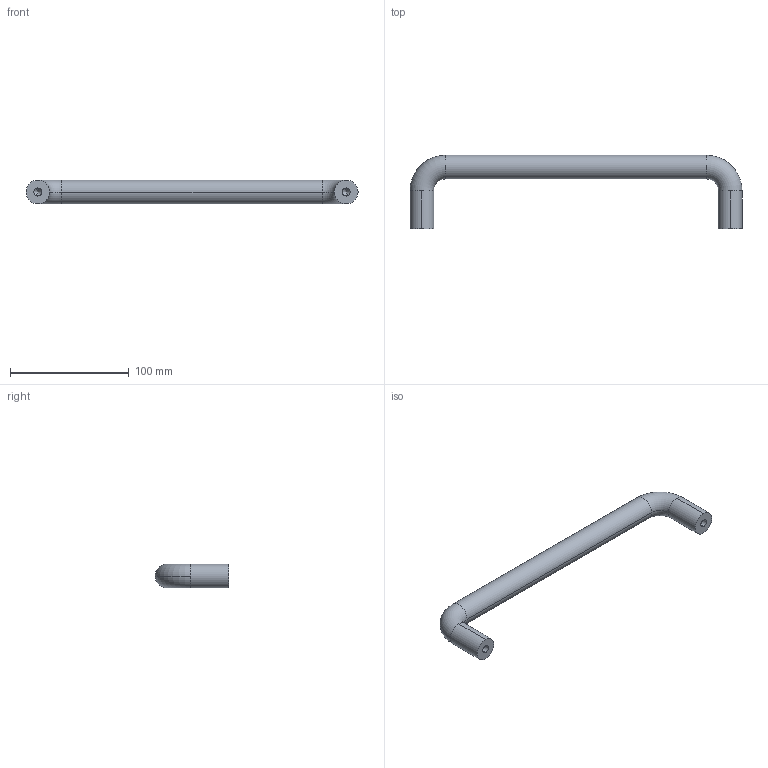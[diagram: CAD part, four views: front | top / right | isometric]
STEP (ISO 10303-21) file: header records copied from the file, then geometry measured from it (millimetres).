
FILE_DESCRIPTION (( 'STEP AP203' ), '1' );
FILE_NAME ('SK4-002-3.STEP', '2018-11-01T09:01:35', ( 'admin' ), ( 'Microsoft' ), 'SwSTEP 2.0', 'SolidWorks 2015', '' );
FILE_SCHEMA (( 'CONFIG_CONTROL_DESIGN' ));
Length unit declared in the file: millimetre
Products named in the file (1): SK4-002-3
Bounding box: 280 x 62 x 20 mm (x, y, z)
Volume: 107425.4 mm3; surface area: 23305 mm2
Topology: 1 solids, 1 shells, 20 faces, 46 edges, 26 vertices
Faces by surface type: cylinder 10, torus 4, cone 4, plane 2
Entity records: 623 total; most frequent: DIRECTION 112, CARTESIAN_POINT 89, ORIENTED_EDGE 84, AXIS2_PLACEMENT_3D 49, EDGE_CURVE 42, CIRCLE 28, VERTEX_POINT 26, EDGE_LOOP 22
